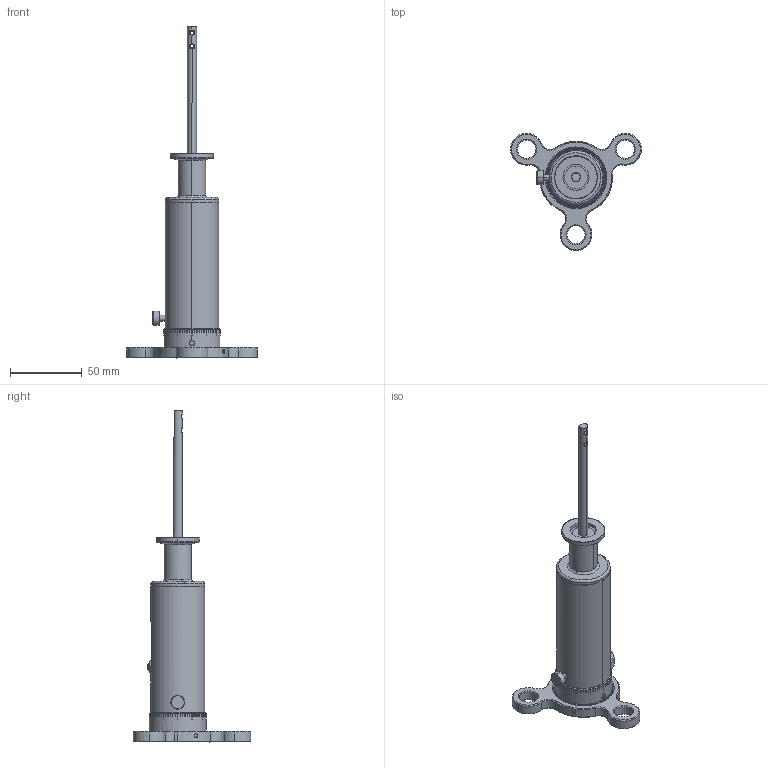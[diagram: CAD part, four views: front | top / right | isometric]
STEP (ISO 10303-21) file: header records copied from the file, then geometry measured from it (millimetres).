
FILE_DESCRIPTION (( 'STEP AP203' ), '1' );
FILE_NAME ('102250-113086.stp', '2019-04-04T21:22:48', ( '' ), ( '' ), 'SwSTEP 2.0', 'SolidWorks 2012', '' );
FILE_SCHEMA (( 'CONFIG_CONTROL_DESIGN' ));
Length unit declared in the file: centimetre
Products named in the file (1): 102250-113086
Bounding box: 90.97 x 81.76 x 231.32 mm (x, y, z)
Volume: 151358.3 mm3; surface area: 26885.4 mm2
Topology: 1 solids, 1 shells, 962 faces, 2670 edges, 1752 vertices
Faces by surface type: plane 510, cylinder 216, bspline 153, cone 83
Entity records: 56814 total; most frequent: CARTESIAN_POINT 33631, ORIENTED_EDGE 5340, DIRECTION 4123, EDGE_CURVE 2670, VERTEX_POINT 1752, AXIS2_PLACEMENT_3D 1490, LINE 1143, VECTOR 1143
